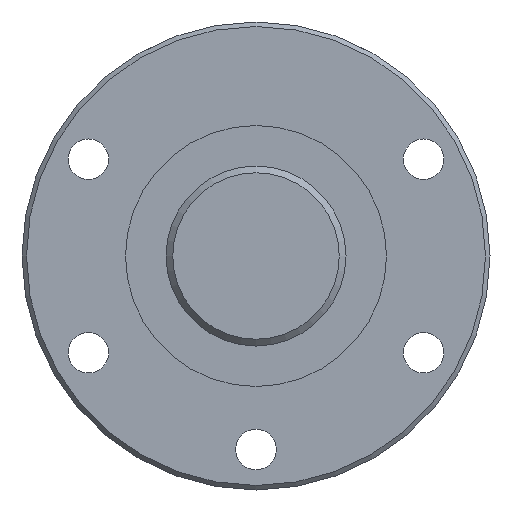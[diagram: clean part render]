
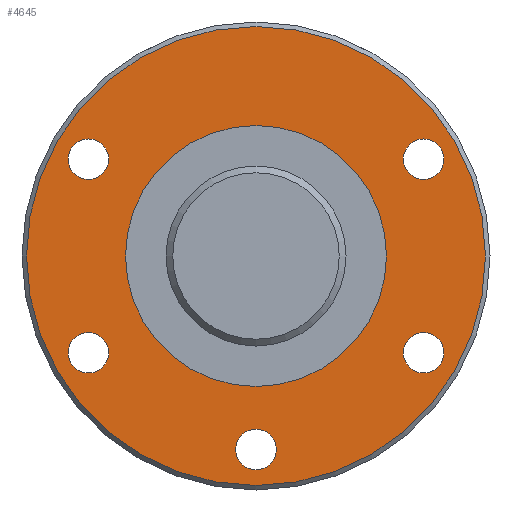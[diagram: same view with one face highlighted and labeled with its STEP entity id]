
A CAD part, left-side view. The second image highlights one B-rep face of the part: STEP entity #4645.
In plain terms, the highlighted planar face has unit normal (-1, 0, 0).
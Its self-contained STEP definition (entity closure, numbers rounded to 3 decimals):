
#1707=ORIENTED_EDGE('',*,*,#2871,.T.);
#1708=ORIENTED_EDGE('',*,*,#2872,.T.);
#1709=ORIENTED_EDGE('',*,*,#2873,.T.);
#1710=ORIENTED_EDGE('',*,*,#2874,.T.);
#1711=ORIENTED_EDGE('',*,*,#2875,.T.);
#1712=ORIENTED_EDGE('',*,*,#2876,.T.);
#1713=ORIENTED_EDGE('',*,*,#2877,.F.);
#2871=EDGE_CURVE('',#3435,#3435,#3604,.T.);
#2872=EDGE_CURVE('',#3436,#3436,#3605,.T.);
#2873=EDGE_CURVE('',#3437,#3437,#3606,.T.);
#2874=EDGE_CURVE('',#3438,#3438,#3607,.T.);
#2875=EDGE_CURVE('',#3439,#3439,#3608,.T.);
#2876=EDGE_CURVE('',#3440,#3440,#3609,.T.);
#2877=EDGE_CURVE('',#3441,#3441,#3610,.T.);
#3435=VERTEX_POINT('',#7429);
#3436=VERTEX_POINT('',#7431);
#3437=VERTEX_POINT('',#7433);
#3438=VERTEX_POINT('',#7435);
#3439=VERTEX_POINT('',#7437);
#3440=VERTEX_POINT('',#7439);
#3441=VERTEX_POINT('',#7441);
#3604=CIRCLE('',#4958,29.);
#3605=CIRCLE('',#4959,4.5);
#3606=CIRCLE('',#4960,4.5);
#3607=CIRCLE('',#4961,4.5);
#3608=CIRCLE('',#4962,4.5);
#3609=CIRCLE('',#4963,4.5);
#3610=CIRCLE('',#4964,51.);
#3803=EDGE_LOOP('',(#1707));
#3804=EDGE_LOOP('',(#1708));
#3805=EDGE_LOOP('',(#1709));
#3806=EDGE_LOOP('',(#1710));
#3807=EDGE_LOOP('',(#1711));
#3808=EDGE_LOOP('',(#1712));
#3809=EDGE_LOOP('',(#1713));
#4135=FACE_BOUND('',#3803,.T.);
#4136=FACE_BOUND('',#3804,.T.);
#4137=FACE_BOUND('',#3805,.T.);
#4138=FACE_BOUND('',#3806,.T.);
#4139=FACE_BOUND('',#3807,.T.);
#4140=FACE_BOUND('',#3808,.T.);
#4141=FACE_BOUND('',#3809,.T.);
#4443=PLANE('',#4957);
#4645=ADVANCED_FACE('',(#4135,#4136,#4137,#4138,#4139,#4140,#4141),#4443,
 .T.);
#4957=AXIS2_PLACEMENT_3D('',#7427,#5820,#5821);
#4958=AXIS2_PLACEMENT_3D('',#7428,#5822,#5823);
#4959=AXIS2_PLACEMENT_3D('',#7430,#5824,#5825);
#4960=AXIS2_PLACEMENT_3D('',#7432,#5826,#5827);
#4961=AXIS2_PLACEMENT_3D('',#7434,#5828,#5829);
#4962=AXIS2_PLACEMENT_3D('',#7436,#5830,#5831);
#4963=AXIS2_PLACEMENT_3D('',#7438,#5832,#5833);
#4964=AXIS2_PLACEMENT_3D('',#7440,#5834,#5835);
#5820=DIRECTION('',(-1.,0.,0.));
#5821=DIRECTION('',(0.,0.,1.));
#5822=DIRECTION('',(1.,0.,0.));
#5823=DIRECTION('',(0.,0.,-1.));
#5824=DIRECTION('',(1.,0.,0.));
#5825=DIRECTION('',(0.,0.,-1.));
#5826=DIRECTION('',(1.,0.,0.));
#5827=DIRECTION('',(0.,0.,-1.));
#5828=DIRECTION('',(1.,0.,0.));
#5829=DIRECTION('',(0.,0.,-1.));
#5830=DIRECTION('',(1.,0.,0.));
#5831=DIRECTION('',(0.,0.,-1.));
#5832=DIRECTION('',(1.,0.,0.));
#5833=DIRECTION('',(0.,0.,-1.));
#5834=DIRECTION('',(1.,0.,0.));
#5835=DIRECTION('',(0.,0.,-1.));
#7427=CARTESIAN_POINT('',(0.,51.,0.));
#7428=CARTESIAN_POINT('',(0.,0.,0.));
#7429=CARTESIAN_POINT('',(0.,0.,-29.));
#7430=CARTESIAN_POINT('',(0.,-43.,0.));
#7431=CARTESIAN_POINT('',(0.,-43.,-4.5));
#7432=CARTESIAN_POINT('',(0.,-21.5,37.239));
#7433=CARTESIAN_POINT('',(0.,-21.5,32.739));
#7434=CARTESIAN_POINT('',(0.,21.5,-37.239));
#7435=CARTESIAN_POINT('',(0.,21.5,-41.739));
#7436=CARTESIAN_POINT('',(0.,-21.5,-37.239));
#7437=CARTESIAN_POINT('',(0.,-21.5,-41.739));
#7438=CARTESIAN_POINT('',(0.,21.5,37.239));
#7439=CARTESIAN_POINT('',(0.,21.5,32.739));
#7440=CARTESIAN_POINT('',(0.,0.,0.));
#7441=CARTESIAN_POINT('',(0.,0.,-51.));
